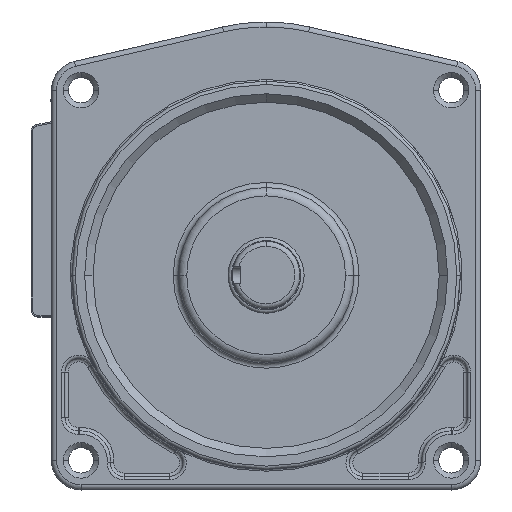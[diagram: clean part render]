
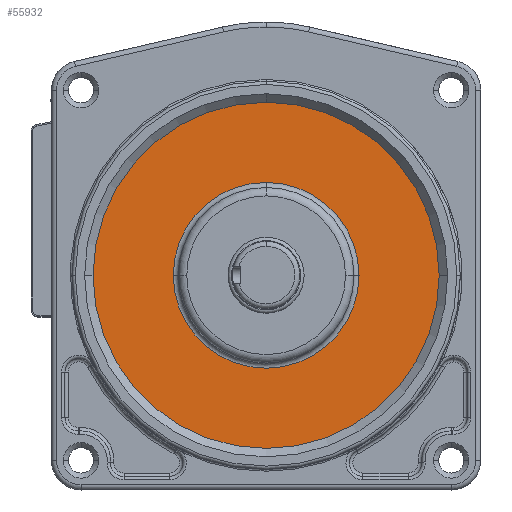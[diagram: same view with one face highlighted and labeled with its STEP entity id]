
A CAD part, top view. The second image highlights one B-rep face of the part: STEP entity #55932.
In plain terms, the highlighted planar face has unit normal (0, 0, 1).
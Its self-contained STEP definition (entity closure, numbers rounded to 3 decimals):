
#55835=CARTESIAN_POINT('',(0.,47.5,160.5));
#55836=VERTEX_POINT('',#55835);
#55844=CARTESIAN_POINT('',(-102.5,-55.,160.5));
#55845=VERTEX_POINT('',#55844);
#55852=CARTESIAN_POINT('',(0.,-55.,160.5));
#55853=DIRECTION('',(0.,0.,-1.));
#55854=DIRECTION('',(-1.,0.,0.));
#55855=AXIS2_PLACEMENT_3D('',#55852,#55853,#55854);
#55856=CIRCLE('',#55855,102.5);
#55857=EDGE_CURVE('',#55845,#55836,#55856,.T.);
#55868=CARTESIAN_POINT('',(102.5,-55.,160.5));
#55869=VERTEX_POINT('',#55868);
#55876=CARTESIAN_POINT('',(0.,-55.,160.5));
#55877=DIRECTION('',(0.,0.,-1.));
#55878=DIRECTION('',(1.,0.,0.));
#55879=AXIS2_PLACEMENT_3D('',#55876,#55877,#55878);
#55880=CIRCLE('',#55879,102.5);
#55881=EDGE_CURVE('',#55869,#55845,#55880,.T.);
#55887=CARTESIAN_POINT('',(106.6,51.688,160.5));
#55888=DIRECTION('',(0.,0.,1.));
#55889=DIRECTION('',(0.,1.,0.));
#55890=AXIS2_PLACEMENT_3D('',#55887,#55888,#55889);
#55891=PLANE('',#55890);
#55892=CARTESIAN_POINT('',(0.,-55.,160.5));
#55893=DIRECTION('',(0.,0.,-1.));
#55894=DIRECTION('',(-1.,0.,0.));
#55895=AXIS2_PLACEMENT_3D('',#55892,#55893,#55894);
#55896=CIRCLE('',#55895,102.5);
#55897=EDGE_CURVE('',#55836,#55869,#55896,.T.);
#55898=ORIENTED_EDGE('',*,*,#55897,.F.);
#55899=ORIENTED_EDGE('',*,*,#55857,.F.);
#55900=ORIENTED_EDGE('',*,*,#55881,.F.);
#55901=EDGE_LOOP('',(#55898,#55899,#55900));
#55902=FACE_BOUND('',#55901,.T.);
#55903=CARTESIAN_POINT('',(-0.,-0.,160.5));
#55904=VERTEX_POINT('',#55903);
#55905=CARTESIAN_POINT('',(-55.,-55.,160.5));
#55906=VERTEX_POINT('',#55905);
#55907=CARTESIAN_POINT('',(-0.,-55.,160.5));
#55908=DIRECTION('',(0.,0.,1.));
#55909=DIRECTION('',(1.,0.,-0.));
#55910=AXIS2_PLACEMENT_3D('',#55907,#55908,#55909);
#55911=CIRCLE('',#55910,55.);
#55912=EDGE_CURVE('',#55904,#55906,#55911,.T.);
#55913=ORIENTED_EDGE('',*,*,#55912,.F.);
#55914=CARTESIAN_POINT('',(55.,-55.,160.5));
#55915=VERTEX_POINT('',#55914);
#55916=CARTESIAN_POINT('',(-0.,-55.,160.5));
#55917=DIRECTION('',(0.,0.,1.));
#55918=DIRECTION('',(1.,0.,-0.));
#55919=AXIS2_PLACEMENT_3D('',#55916,#55917,#55918);
#55920=CIRCLE('',#55919,55.);
#55921=EDGE_CURVE('',#55915,#55904,#55920,.T.);
#55922=ORIENTED_EDGE('',*,*,#55921,.F.);
#55923=CARTESIAN_POINT('',(-0.,-55.,160.5));
#55924=DIRECTION('',(0.,0.,1.));
#55925=DIRECTION('',(-1.,0.,0.));
#55926=AXIS2_PLACEMENT_3D('',#55923,#55924,#55925);
#55927=CIRCLE('',#55926,55.);
#55928=EDGE_CURVE('',#55906,#55915,#55927,.T.);
#55929=ORIENTED_EDGE('',*,*,#55928,.F.);
#55930=EDGE_LOOP('',(#55913,#55922,#55929));
#55931=FACE_BOUND('',#55930,.T.);
#55932=ADVANCED_FACE('',(#55902,#55931),#55891,.T.);
